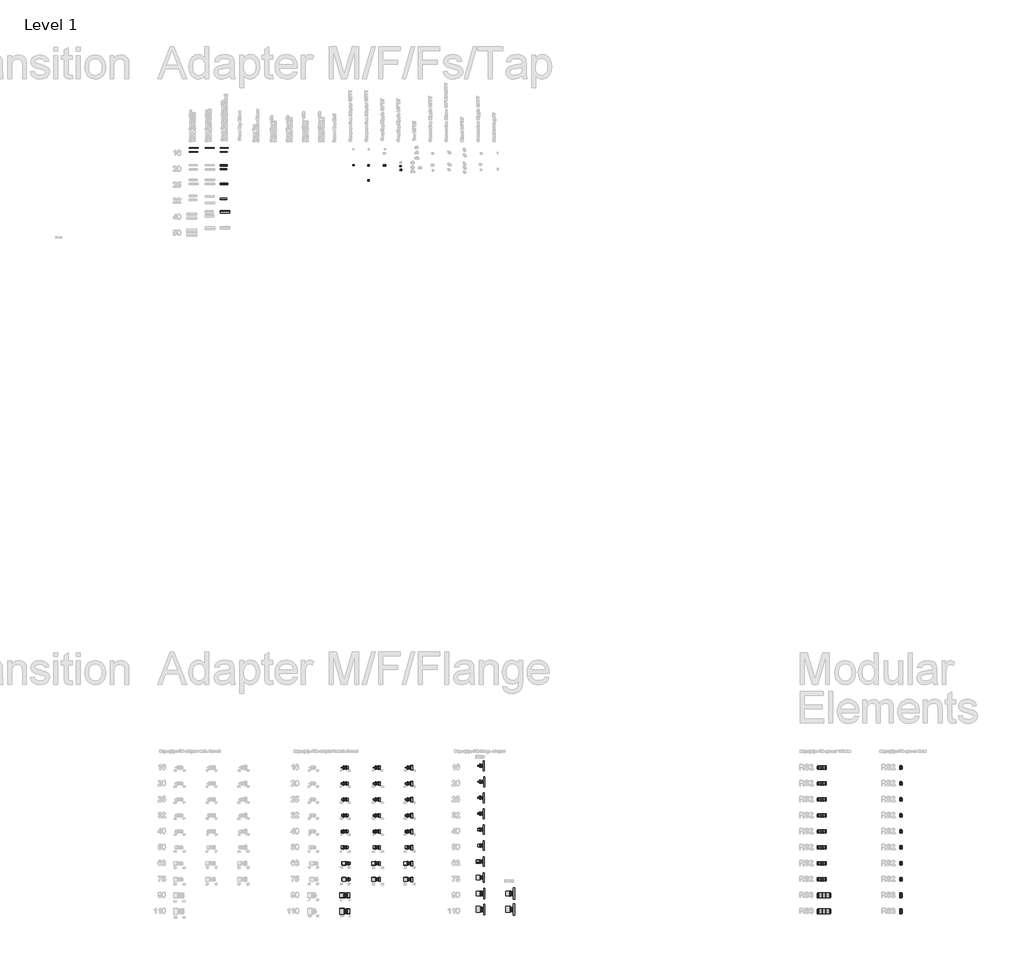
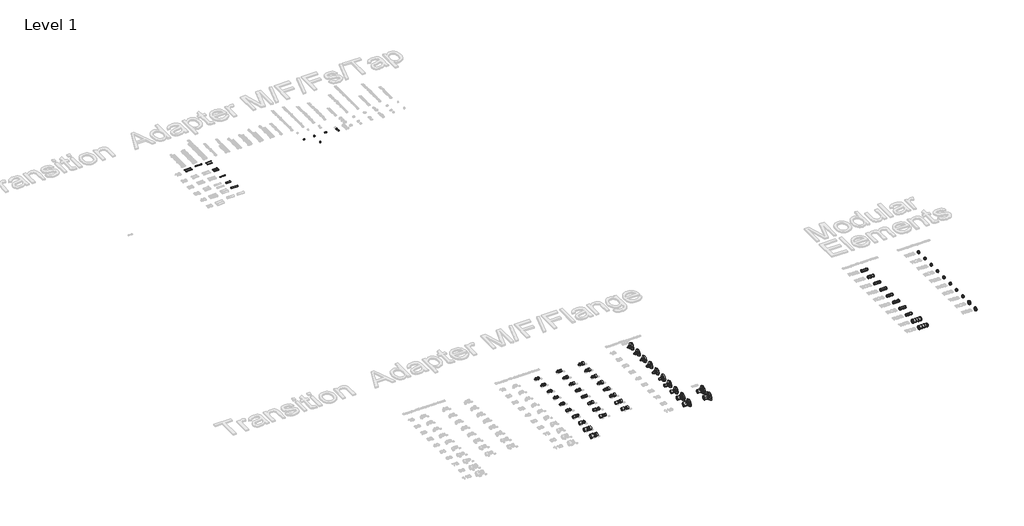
# One storey, part 5 of 58: 103 pipe fittings, 10 pipe segments.
"""IFC4 building model written with IfcOpenShell, lengths in millimetres."""

from ifc_helpers import new_model, si_unit, point, frame, frame_2d, origin, place, context, project, spatial, circle_curve, trimmed, segment, composite_curve, outline, extrude, transform, mapped, element, save
from components import pipe_fitting_62024e3c, pipe_fitting_8efa302d, pipe_fitting_230b2432, pipe_fitting_2b9a29ce, pipe_fitting_a4cde8ab, rs_adapter_8da40ca7, rs_adapter_b4bbd465, rs_adapter_f82712ed, rs_adapter_ef84fdb0, rs_adapter_c6cd646c, rs_adapter_ed761ce0, rs_adapter_634e7d73, rs_adapter_fc67200b, rs_adapter_b700a1d7, rs_adapter_1ad0a11d, rs_female_adapter_be3e60a6, rs_female_adapter_9108f48d, rs_female_adapter_c31f11b0, rs_female_adapter_dce81887, rs_flange_a0c34e24, rs_flange_74e88712, rs_flange_21cca742, rs_spacer_67fe0fff, rs_spacer_eb34c34b, rs_spacer_c2a2605f, rs_spacer_aa593b7b

model = new_model("IFC4")

# Units and contexts
model_context = context("Model", 3, world=origin())
ifc_project = project(units=[si_unit("LENGTHUNIT", "METRE", prefix="MILLI")], contexts=[model_context])

# Site, building, storey
site = spatial("IfcSite", under=ifc_project)
building = spatial("IfcBuilding", under=site)
storey = spatial("IfcBuildingStorey", under=building, Name="Level 1", Elevation=27.3876384)

# Pipe fittings
placement = place(None, origin())
pipe_fitting_shape = pipe_fitting_62024e3c(model_context)
element("IfcPipeFitting", 1, ObjectType="Coupling Nipple 3/4\"MT : Superpipe Coupling Nipple - 3/4\"MT-3/4\"MT", at=placement, inside=storey, context=model_context, shape_type="MappedRepresentation", body=[
    mapped(pipe_fitting_shape, transform((33335.3160951, 29942.8987205, 27.3876384), x_axis=(1.0, 0.0, 0.0), y_axis=(0.0, 1.0, 0.0), z_axis=(0.0, 0.0, 1.0))),
])
pipe_fitting_2_shape = pipe_fitting_8efa302d(model_context)
element("IfcPipeFitting", 2, ObjectType="Coupling Nipple 1/2\"MT : Superpipe Coupling Nipple - 20-1/2\"MT", at=placement, inside=storey, context=model_context, shape_type="MappedRepresentation", body=[
    mapped(pipe_fitting_2_shape, transform((33050.0023834, 29956.5969982, 27.3876384), x_axis=(1.0, 0.0, 0.0), y_axis=(0.0, 1.0, 0.0), z_axis=(0.0, 0.0, 1.0))),
])
element("IfcPipeFitting", 3, ObjectType="Coupling Nipple 3/4\"MT : Superpipe Coupling Nipple - 20-3/4\"MT", at=placement, inside=storey, context=model_context, shape_type="MappedRepresentation", body=[
    mapped(pipe_fitting_shape, transform((33342.5109629, 29873.890947, 27.3876384), x_axis=(1.0, 0.0, 0.0), y_axis=(0.0, 1.0, 0.0), z_axis=(0.0, 0.0, 1.0))),
])
pipe_fitting_3_shape = pipe_fitting_230b2432(model_context)
element("IfcPipeFitting", 4, ObjectType="Compression Adapter 1/2\"FT : Superpipe Compression Adapter", at=placement, inside=storey, context=model_context, shape_type="MappedRepresentation", body=[
    mapped(pipe_fitting_3_shape, transform((32440.8650131, 29960.0431886, 27.3876384), x_axis=(1.0, 0.0, 0.0), y_axis=(0.0, 1.0, 0.0), z_axis=(0.0, 0.0, 1.0))),
])
element("IfcPipeFitting", 5, ObjectType="Compression Adapter 1/2\"FT : Superpipe Compression Adapter", at=placement, inside=storey, context=model_context, shape_type="MappedRepresentation", body=[
    mapped(pipe_fitting_3_shape, transform((33017.0023834, 29956.5969982, 27.3876384), x_axis=(1.0, 0.0, 0.0), y_axis=(0.0, 1.0, 0.0), z_axis=(0.0, 0.0, 1.0))),
])
pipe_fitting_4_shape = pipe_fitting_2b9a29ce(model_context)
element("IfcPipeFitting", 6, ObjectType="Compression Adapter 3/4\"FT : Superpipe Compression Adapter", at=placement, inside=storey, context=model_context, shape_type="MappedRepresentation", body=[
    mapped(pipe_fitting_4_shape, transform((32723.8650131, 29679.1922591, 27.3876384), x_axis=(1.0, 0.0, 0.0), y_axis=(0.0, 1.0, 0.0), z_axis=(0.0, 0.0, 1.0))),
])
pipe_fitting_5_shape = pipe_fitting_a4cde8ab(model_context)
element("IfcPipeFitting", 7, ObjectType="Compression Adapter 3/4\"FT : Superpipe Compression Adapter", at=placement, inside=storey, context=model_context, shape_type="MappedRepresentation", body=[
    mapped(pipe_fitting_5_shape, transform((32723.8650131, 29960.0431886, 27.3876384), x_axis=(1.0, 0.0, 0.0), y_axis=(0.0, 1.0, 0.0), z_axis=(0.0, 0.0, 1.0))),
])
rs_adapter_shape = rs_adapter_8da40ca7(model_context)
element("IfcPipeFitting", 8, ObjectType="RS Adapter : Superpipe RS Press Adapter", at=placement, inside=storey, context=model_context, shape_type="MappedRepresentation", body=[
    mapped(rs_adapter_shape, transform((32296.6568613, 15946.8081159, 27.3876384), x_axis=(-1.0000000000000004, 0.0, 0.0), y_axis=(0.0, 1.0000000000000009, 0.0), z_axis=(0.0, 0.0, -1.0000000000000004))),
])
element("IfcPipeFitting", 9, ObjectType="RS Adapter : Superpipe RS Press Adapter", at=placement, inside=storey, context=model_context, shape_type="MappedRepresentation", body=[
    mapped(rs_adapter_shape, transform((34858.1649783, 15981.0652943, 27.3876384), x_axis=(-1.0000000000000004, 0.0, 0.0), y_axis=(0.0, 1.0000000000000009, 0.0), z_axis=(0.0, 0.0, -1.0000000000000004))),
])
element("IfcPipeFitting", 10, ObjectType="RS Adapter : Superpipe RS Press Adapter", at=placement, inside=storey, context=model_context, shape_type="MappedRepresentation", body=[
    mapped(rs_adapter_shape, transform((35414.1300252, 15981.0652943, 27.3876384), x_axis=(-1.0000000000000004, 0.0, 0.0), y_axis=(0.0, 1.0000000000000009, 0.0), z_axis=(0.0, 0.0, -1.0000000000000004))),
])
rs_adapter_2_shape = rs_adapter_b4bbd465(model_context)
element("IfcPipeFitting", 11, ObjectType="RS Adapter : Superpipe RS Press Adapter", at=placement, inside=storey, context=model_context, shape_type="MappedRepresentation", body=[
    mapped(rs_adapter_2_shape, transform((34850.1649783, 18681.0652943, 27.3876384), x_axis=(-1.0000000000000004, 0.0, 0.0), y_axis=(0.0, 1.0000000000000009, 0.0), z_axis=(0.0, 0.0, -1.0000000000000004))),
])
element("IfcPipeFitting", 12, ObjectType="RS Adapter : Superpipe RS Press Adapter", at=placement, inside=storey, context=model_context, shape_type="MappedRepresentation", body=[
    mapped(rs_adapter_2_shape, transform((32288.6568613, 18646.8081159, 27.3876384), x_axis=(-1.0000000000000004, 0.0, 0.0), y_axis=(0.0, 1.0000000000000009, 0.0), z_axis=(0.0, 0.0, -1.0000000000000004))),
])
element("IfcPipeFitting", 13, ObjectType="RS Adapter : Superpipe RS Press Adapter", at=placement, inside=storey, context=model_context, shape_type="MappedRepresentation", body=[
    mapped(rs_adapter_2_shape, transform((32888.6568613, 18646.8081159, 27.3876384), x_axis=(-1.0000000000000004, 0.0, 0.0), y_axis=(0.0, 1.0000000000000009, 0.0), z_axis=(0.0, 0.0, -1.0000000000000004))),
])
element("IfcPipeFitting", 14, ObjectType="RS Adapter : Superpipe RS Press Adapter", at=placement, inside=storey, context=model_context, shape_type="MappedRepresentation", body=[
    mapped(rs_adapter_2_shape, transform((33488.6568613, 18646.8081159, 27.3876384), x_axis=(-1.0000000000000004, 0.0, 0.0), y_axis=(0.0, 1.0000000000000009, 0.0), z_axis=(0.0, 0.0, -1.0000000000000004))),
])
rs_adapter_3_shape = rs_adapter_f82712ed(model_context)
element("IfcPipeFitting", 15, ObjectType="RS Adapter : Superpipe RS Press Adapter", at=placement, inside=storey, context=model_context, shape_type="MappedRepresentation", body=[
    mapped(rs_adapter_3_shape, transform((34852.157769, 18381.0652943, 27.3876384), x_axis=(-1.0000000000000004, 0.0, 0.0), y_axis=(0.0, 1.0000000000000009, 0.0), z_axis=(0.0, 0.0, -1.0000000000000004))),
])
element("IfcPipeFitting", 16, ObjectType="RS Adapter : Superpipe RS Press Adapter", at=placement, inside=storey, context=model_context, shape_type="MappedRepresentation", body=[
    mapped(rs_adapter_3_shape, transform((32288.6568613, 18346.8081159, 27.3876384), x_axis=(-1.0000000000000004, 0.0, 0.0), y_axis=(0.0, 1.0000000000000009, 0.0), z_axis=(0.0, 0.0, -1.0000000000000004))),
])
element("IfcPipeFitting", 17, ObjectType="RS Adapter : Superpipe RS Press Adapter", at=placement, inside=storey, context=model_context, shape_type="MappedRepresentation", body=[
    mapped(rs_adapter_3_shape, transform((32888.6568613, 18346.8081159, 27.3876384), x_axis=(-1.0000000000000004, 0.0, 0.0), y_axis=(0.0, 1.0000000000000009, 0.0), z_axis=(0.0, 0.0, -1.0000000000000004))),
])
element("IfcPipeFitting", 18, ObjectType="RS Adapter : Superpipe RS Press Adapter", at=placement, inside=storey, context=model_context, shape_type="MappedRepresentation", body=[
    mapped(rs_adapter_3_shape, transform((33488.6568613, 18346.8081159, 27.3876384), x_axis=(-1.0000000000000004, 0.0, 0.0), y_axis=(0.0, 1.0000000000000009, 0.0), z_axis=(0.0, 0.0, -1.0000000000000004))),
])
rs_adapter_4_shape = rs_adapter_ef84fdb0(model_context)
element("IfcPipeFitting", 19, ObjectType="RS Adapter : Superpipe RS Press Adapter", at=placement, inside=storey, context=model_context, shape_type="MappedRepresentation", body=[
    mapped(rs_adapter_4_shape, transform((34850.1649783, 18081.0652943, 27.3876384), x_axis=(-1.0000000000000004, 0.0, 0.0), y_axis=(0.0, 1.0000000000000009, 0.0), z_axis=(0.0, 0.0, -1.0000000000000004))),
])
element("IfcPipeFitting", 20, ObjectType="RS Adapter : Superpipe RS Press Adapter", at=placement, inside=storey, context=model_context, shape_type="MappedRepresentation", body=[
    mapped(rs_adapter_4_shape, transform((32288.6568613, 18046.8081159, 27.3876384), x_axis=(-1.0000000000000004, 0.0, 0.0), y_axis=(0.0, 1.0000000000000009, 0.0), z_axis=(0.0, 0.0, -1.0000000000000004))),
])
element("IfcPipeFitting", 21, ObjectType="RS Adapter : Superpipe RS Press Adapter", at=placement, inside=storey, context=model_context, shape_type="MappedRepresentation", body=[
    mapped(rs_adapter_4_shape, transform((32888.6568613, 18046.8081159, 27.3876384), x_axis=(-1.0000000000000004, 0.0, 0.0), y_axis=(0.0, 1.0000000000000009, 0.0), z_axis=(0.0, 0.0, -1.0000000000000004))),
])
element("IfcPipeFitting", 22, ObjectType="RS Adapter : Superpipe RS Press Adapter", at=placement, inside=storey, context=model_context, shape_type="MappedRepresentation", body=[
    mapped(rs_adapter_4_shape, transform((33488.6568613, 18046.8081159, 27.3876384), x_axis=(-1.0000000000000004, 0.0, 0.0), y_axis=(0.0, 1.0000000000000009, 0.0), z_axis=(0.0, 0.0, -1.0000000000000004))),
])
rs_adapter_5_shape = rs_adapter_c6cd646c(model_context)
element("IfcPipeFitting", 23, ObjectType="RS Adapter : Superpipe RS Press Adapter", at=placement, inside=storey, context=model_context, shape_type="MappedRepresentation", body=[
    mapped(rs_adapter_5_shape, transform((32296.6568613, 16246.8081159, 27.3876384), x_axis=(-1.0000000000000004, 0.0, 0.0), y_axis=(0.0, 1.0000000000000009, 0.0), z_axis=(0.0, 0.0, -1.0000000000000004))),
])
element("IfcPipeFitting", 24, ObjectType="RS Adapter : Superpipe RS Press Adapter", at=placement, inside=storey, context=model_context, shape_type="MappedRepresentation", body=[
    mapped(rs_adapter_5_shape, transform((34858.1649783, 16281.0652943, 27.3876384), x_axis=(-1.0000000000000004, 0.0, 0.0), y_axis=(0.0, 1.0000000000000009, 0.0), z_axis=(0.0, 0.0, -1.0000000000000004))),
])
element("IfcPipeFitting", 25, ObjectType="RS Adapter : Superpipe RS Press Adapter", at=placement, inside=storey, context=model_context, shape_type="MappedRepresentation", body=[
    mapped(rs_adapter_5_shape, transform((35414.1300252, 16281.0652943, 27.3876384), x_axis=(-1.0000000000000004, 0.0, 0.0), y_axis=(0.0, 1.0000000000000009, 0.0), z_axis=(0.0, 0.0, -1.0000000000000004))),
])
rs_adapter_6_shape = rs_adapter_ed761ce0(model_context)
element("IfcPipeFitting", 26, ObjectType="RS Adapter : Superpipe RS Press Adapter", at=placement, inside=storey, context=model_context, shape_type="MappedRepresentation", body=[
    mapped(rs_adapter_6_shape, transform((34850.1649783, 17781.0652943, 27.3876384), x_axis=(-1.0000000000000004, 0.0, 0.0), y_axis=(0.0, 1.0000000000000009, 0.0), z_axis=(0.0, 0.0, -1.0000000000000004))),
])
element("IfcPipeFitting", 27, ObjectType="RS Adapter : Superpipe RS Press Adapter", at=placement, inside=storey, context=model_context, shape_type="MappedRepresentation", body=[
    mapped(rs_adapter_6_shape, transform((32288.6568613, 17746.8081159, 27.3876384), x_axis=(-1.0000000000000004, 0.0, 0.0), y_axis=(0.0, 1.0000000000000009, 0.0), z_axis=(0.0, 0.0, -1.0000000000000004))),
])
element("IfcPipeFitting", 28, ObjectType="RS Adapter : Superpipe RS Press Adapter", at=placement, inside=storey, context=model_context, shape_type="MappedRepresentation", body=[
    mapped(rs_adapter_6_shape, transform((32888.6568613, 17746.8081159, 27.3876384), x_axis=(-1.0000000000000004, 0.0, 0.0), y_axis=(0.0, 1.0000000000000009, 0.0), z_axis=(0.0, 0.0, -1.0000000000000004))),
])
element("IfcPipeFitting", 29, ObjectType="RS Adapter : Superpipe RS Press Adapter", at=placement, inside=storey, context=model_context, shape_type="MappedRepresentation", body=[
    mapped(rs_adapter_6_shape, transform((33488.6568613, 17746.8081159, 27.3876384), x_axis=(-1.0000000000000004, 0.0, 0.0), y_axis=(0.0, 1.0000000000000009, 0.0), z_axis=(0.0, 0.0, -1.0000000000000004))),
])
rs_adapter_7_shape = rs_adapter_634e7d73(model_context)
element("IfcPipeFitting", 30, ObjectType="RS Adapter : Superpipe RS Press Adapter", at=placement, inside=storey, context=model_context, shape_type="MappedRepresentation", body=[
    mapped(rs_adapter_7_shape, transform((34850.1649783, 17481.0652943, 27.3876384), x_axis=(-1.0000000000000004, 0.0, 0.0), y_axis=(0.0, 1.0000000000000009, 0.0), z_axis=(0.0, 0.0, -1.0000000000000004))),
])
element("IfcPipeFitting", 31, ObjectType="RS Adapter : Superpipe RS Press Adapter", at=placement, inside=storey, context=model_context, shape_type="MappedRepresentation", body=[
    mapped(rs_adapter_7_shape, transform((32288.6568613, 17446.8081159, 27.3876384), x_axis=(-1.0000000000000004, 0.0, 0.0), y_axis=(0.0, 1.0000000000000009, 0.0), z_axis=(0.0, 0.0, -1.0000000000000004))),
])
element("IfcPipeFitting", 32, ObjectType="RS Adapter : Superpipe RS Press Adapter", at=placement, inside=storey, context=model_context, shape_type="MappedRepresentation", body=[
    mapped(rs_adapter_7_shape, transform((32888.6568613, 17446.8081159, 27.3876384), x_axis=(-1.0000000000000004, 0.0, 0.0), y_axis=(0.0, 1.0000000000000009, 0.0), z_axis=(0.0, 0.0, -1.0000000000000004))),
])
element("IfcPipeFitting", 33, ObjectType="RS Adapter : Superpipe RS Press Adapter", at=placement, inside=storey, context=model_context, shape_type="MappedRepresentation", body=[
    mapped(rs_adapter_7_shape, transform((33488.6568613, 17446.8081159, 27.3876384), x_axis=(-1.0000000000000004, 0.0, 0.0), y_axis=(0.0, 1.0000000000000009, 0.0), z_axis=(0.0, 0.0, -1.0000000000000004))),
])
rs_adapter_8_shape = rs_adapter_fc67200b(model_context)
element("IfcPipeFitting", 34, ObjectType="RS Adapter : Superpipe RS Press Adapter", at=placement, inside=storey, context=model_context, shape_type="MappedRepresentation", body=[
    mapped(rs_adapter_8_shape, transform((34850.1649783, 17181.0652943, 27.3876384), x_axis=(-1.0000000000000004, 0.0, 0.0), y_axis=(0.0, 1.0000000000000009, 0.0), z_axis=(0.0, 0.0, -1.0000000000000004))),
])
element("IfcPipeFitting", 35, ObjectType="RS Adapter : Superpipe RS Press Adapter", at=placement, inside=storey, context=model_context, shape_type="MappedRepresentation", body=[
    mapped(rs_adapter_8_shape, transform((32288.6568613, 17146.8081159, 27.3876384), x_axis=(-1.0000000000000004, 0.0, 0.0), y_axis=(0.0, 1.0000000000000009, 0.0), z_axis=(0.0, 0.0, -1.0000000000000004))),
])
element("IfcPipeFitting", 36, ObjectType="RS Adapter : Superpipe RS Press Adapter", at=placement, inside=storey, context=model_context, shape_type="MappedRepresentation", body=[
    mapped(rs_adapter_8_shape, transform((32888.6568613, 17146.8081159, 27.3876384), x_axis=(-1.0000000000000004, 0.0, 0.0), y_axis=(0.0, 1.0000000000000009, 0.0), z_axis=(0.0, 0.0, -1.0000000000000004))),
])
element("IfcPipeFitting", 37, ObjectType="RS Adapter : Superpipe RS Press Adapter", at=placement, inside=storey, context=model_context, shape_type="MappedRepresentation", body=[
    mapped(rs_adapter_8_shape, transform((33488.6568613, 17146.8081159, 27.3876384), x_axis=(-1.0000000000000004, 0.0, 0.0), y_axis=(0.0, 1.0000000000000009, 0.0), z_axis=(0.0, 0.0, -1.0000000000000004))),
])
rs_adapter_9_shape = rs_adapter_b700a1d7(model_context)
element("IfcPipeFitting", 38, ObjectType="RS Adapter : Superpipe RS Press Adapter", at=placement, inside=storey, context=model_context, shape_type="MappedRepresentation", body=[
    mapped(rs_adapter_9_shape, transform((34850.1649783, 16581.0652943, 27.3876384), x_axis=(-1.0000000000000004, 0.0, 0.0), y_axis=(0.0, 1.0000000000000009, 0.0), z_axis=(0.0, 0.0, -1.0000000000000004))),
])
element("IfcPipeFitting", 39, ObjectType="RS Adapter : Superpipe RS Press Adapter", at=placement, inside=storey, context=model_context, shape_type="MappedRepresentation", body=[
    mapped(rs_adapter_9_shape, transform((32328.6568613, 16546.8081159, 27.3876384), x_axis=(-1.0000000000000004, 0.0, 0.0), y_axis=(0.0, 1.0000000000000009, 0.0), z_axis=(0.0, 0.0, -1.0000000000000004))),
])
element("IfcPipeFitting", 40, ObjectType="RS Adapter : Superpipe RS Press Adapter", at=placement, inside=storey, context=model_context, shape_type="MappedRepresentation", body=[
    mapped(rs_adapter_9_shape, transform((32888.6568613, 16546.8081159, 27.3876384), x_axis=(-1.0000000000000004, 0.0, 0.0), y_axis=(0.0, 1.0000000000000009, 0.0), z_axis=(0.0, 0.0, -1.0000000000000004))),
])
element("IfcPipeFitting", 41, ObjectType="RS Adapter : Superpipe RS Press Adapter", at=placement, inside=storey, context=model_context, shape_type="MappedRepresentation", body=[
    mapped(rs_adapter_9_shape, transform((33488.6568613, 16546.8081159, 27.3876384), x_axis=(-1.0000000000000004, 0.0, 0.0), y_axis=(0.0, 1.0000000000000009, 0.0), z_axis=(0.0, 0.0, -1.0000000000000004))),
])
rs_adapter_10_shape = rs_adapter_1ad0a11d(model_context)
element("IfcPipeFitting", 42, ObjectType="RS Adapter : Superpipe RS Press Adapter", at=placement, inside=storey, context=model_context, shape_type="MappedRepresentation", body=[
    mapped(rs_adapter_10_shape, transform((34850.1649783, 16881.0652943, 27.3876384), x_axis=(-1.0000000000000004, 0.0, 0.0), y_axis=(0.0, 1.0000000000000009, 0.0), z_axis=(0.0, 0.0, -1.0000000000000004))),
])
element("IfcPipeFitting", 43, ObjectType="RS Adapter : Superpipe RS Press Adapter", at=placement, inside=storey, context=model_context, shape_type="MappedRepresentation", body=[
    mapped(rs_adapter_10_shape, transform((32328.6568613, 16846.8081159, 27.3876384), x_axis=(-1.0000000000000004, 0.0, 0.0), y_axis=(0.0, 1.0000000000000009, 0.0), z_axis=(0.0, 0.0, -1.0000000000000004))),
])
element("IfcPipeFitting", 44, ObjectType="RS Adapter : Superpipe RS Press Adapter", at=placement, inside=storey, context=model_context, shape_type="MappedRepresentation", body=[
    mapped(rs_adapter_10_shape, transform((32888.6568613, 16846.8081159, 27.3876384), x_axis=(-1.0000000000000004, 0.0, 0.0), y_axis=(0.0, 1.0000000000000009, 0.0), z_axis=(0.0, 0.0, -1.0000000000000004))),
])
element("IfcPipeFitting", 45, ObjectType="RS Adapter : Superpipe RS Press Adapter", at=placement, inside=storey, context=model_context, shape_type="MappedRepresentation", body=[
    mapped(rs_adapter_10_shape, transform((33488.6568613, 16846.8081159, 27.3876384), x_axis=(-1.0000000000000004, 0.0, 0.0), y_axis=(0.0, 1.0000000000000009, 0.0), z_axis=(0.0, 0.0, -1.0000000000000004))),
])
rs_female_adapter_shape = rs_female_adapter_be3e60a6(model_context)
element("IfcPipeFitting", 46, ObjectType="RS Female Adapter : Superpipe RS2 FT Adapter 1”", at=placement, inside=storey, context=model_context, shape_type="MappedRepresentation", body=[
    mapped(rs_female_adapter_shape, transform((32306.6568613, 18646.8081159, 27.3876384), x_axis=(1.0, 0.0, 0.0), y_axis=(0.0, -1.0, 0.0), z_axis=(0.0, 0.0, -1.0))),
])
element("IfcPipeFitting", 47, ObjectType="RS Female Adapter : Superpipe RS2 FT Adapter 1”", at=placement, inside=storey, context=model_context, shape_type="MappedRepresentation", body=[
    mapped(rs_female_adapter_shape, transform((32306.6568613, 18346.8081159, 27.3876384), x_axis=(1.0, 0.0, 0.0), y_axis=(0.0, -1.0, 0.0), z_axis=(0.0, 0.0, -1.0))),
])
element("IfcPipeFitting", 48, ObjectType="RS Female Adapter : Superpipe RS2 FT Adapter 1”", at=placement, inside=storey, context=model_context, shape_type="MappedRepresentation", body=[
    mapped(rs_female_adapter_shape, transform((32306.6568613, 18046.8081159, 27.3876384), x_axis=(1.0, 0.0, 0.0), y_axis=(0.0, -1.0, 0.0), z_axis=(0.0, 0.0, -1.0))),
])
element("IfcPipeFitting", 49, ObjectType="RS Female Adapter : Superpipe RS2 FT Adapter 1”", at=placement, inside=storey, context=model_context, shape_type="MappedRepresentation", body=[
    mapped(rs_female_adapter_shape, transform((32306.6568613, 17746.8081159, 27.3876384), x_axis=(1.0, 0.0, 0.0), y_axis=(0.0, -1.0, 0.0), z_axis=(0.0, 0.0, -1.0))),
])
element("IfcPipeFitting", 50, ObjectType="RS Female Adapter : Superpipe RS2 FT Adapter 1”", at=placement, inside=storey, context=model_context, shape_type="MappedRepresentation", body=[
    mapped(rs_female_adapter_shape, transform((32306.6568613, 17446.8081159, 27.3876384), x_axis=(1.0, 0.0, 0.0), y_axis=(0.0, -1.0, 0.0), z_axis=(0.0, 0.0, -1.0))),
])
element("IfcPipeFitting", 51, ObjectType="RS Female Adapter : Superpipe RS2 FT Adapter 1”", at=placement, inside=storey, context=model_context, shape_type="MappedRepresentation", body=[
    mapped(rs_female_adapter_shape, transform((32306.6568613, 17146.8081159, 27.3876384), x_axis=(1.0, 0.0, 0.0), y_axis=(0.0, -1.0, 0.0), z_axis=(0.0, 0.0, -1.0))),
])
element("IfcPipeFitting", 52, ObjectType="RS Female Adapter : Superpipe RS2 FT Adapter 1”", at=placement, inside=storey, context=model_context, shape_type="MappedRepresentation", body=[
    mapped(rs_female_adapter_shape, transform((32346.6568613, 16846.8081159, 27.3876384), x_axis=(1.0, 0.0, 0.0), y_axis=(0.0, -1.0, 0.0), z_axis=(0.0, 0.0, -1.0))),
])
element("IfcPipeFitting", 53, ObjectType="RS Female Adapter : Superpipe RS2 FT Adapter 1”", at=placement, inside=storey, context=model_context, shape_type="MappedRepresentation", body=[
    mapped(rs_female_adapter_shape, transform((32346.6568613, 16546.8081159, 27.3876384), x_axis=(1.0, 0.0, 0.0), y_axis=(0.0, -1.0, 0.0), z_axis=(0.0, 0.0, -1.0))),
])
rs_female_adapter_2_shape = rs_female_adapter_9108f48d(model_context)
element("IfcPipeFitting", 54, ObjectType="RS Female Adapter : Superpipe RS2 FT Adapter 2”", at=placement, inside=storey, context=model_context, shape_type="MappedRepresentation", body=[
    mapped(rs_female_adapter_2_shape, transform((32906.6568613, 18346.8081159, 27.3876384), x_axis=(1.0, 0.0, 0.0), y_axis=(0.0, -1.0, 0.0), z_axis=(0.0, 0.0, -1.0))),
])
element("IfcPipeFitting", 55, ObjectType="RS Female Adapter : Superpipe RS2 FT Adapter 2”", at=placement, inside=storey, context=model_context, shape_type="MappedRepresentation", body=[
    mapped(rs_female_adapter_2_shape, transform((32906.6568613, 18046.8081159, 27.3876384), x_axis=(1.0, 0.0, 0.0), y_axis=(0.0, -1.0, 0.0), z_axis=(0.0, 0.0, -1.0))),
])
element("IfcPipeFitting", 56, ObjectType="RS Female Adapter : Superpipe RS2 FT Adapter 2”", at=placement, inside=storey, context=model_context, shape_type="MappedRepresentation", body=[
    mapped(rs_female_adapter_2_shape, transform((32906.6568613, 17746.8081159, 27.3876384), x_axis=(1.0, 0.0, 0.0), y_axis=(0.0, -1.0, 0.0), z_axis=(0.0, 0.0, -1.0))),
])
element("IfcPipeFitting", 57, ObjectType="RS Female Adapter : Superpipe RS2 FT Adapter 2”", at=placement, inside=storey, context=model_context, shape_type="MappedRepresentation", body=[
    mapped(rs_female_adapter_2_shape, transform((32906.6568613, 17446.8081159, 27.3876384), x_axis=(1.0, 0.0, 0.0), y_axis=(0.0, -1.0, 0.0), z_axis=(0.0, 0.0, -1.0))),
])
element("IfcPipeFitting", 58, ObjectType="RS Female Adapter : Superpipe RS2 FT Adapter 2”", at=placement, inside=storey, context=model_context, shape_type="MappedRepresentation", body=[
    mapped(rs_female_adapter_2_shape, transform((32906.6568613, 17146.8081159, 27.3876384), x_axis=(1.0, 0.0, 0.0), y_axis=(0.0, -1.0, 0.0), z_axis=(0.0, 0.0, -1.0))),
])
element("IfcPipeFitting", 59, ObjectType="RS Female Adapter : Superpipe RS2 FT Adapter 2”", at=placement, inside=storey, context=model_context, shape_type="MappedRepresentation", body=[
    mapped(rs_female_adapter_2_shape, transform((32906.6568613, 16846.8081159, 27.3876384), x_axis=(1.0, 0.0, 0.0), y_axis=(0.0, -1.0, 0.0), z_axis=(0.0, 0.0, -1.0))),
])
element("IfcPipeFitting", 60, ObjectType="RS Female Adapter : Superpipe RS2 FT Adapter 2”", at=placement, inside=storey, context=model_context, shape_type="MappedRepresentation", body=[
    mapped(rs_female_adapter_2_shape, transform((32906.6568613, 16546.8081159, 27.3876384), x_axis=(1.0, 0.0, 0.0), y_axis=(0.0, -1.0, 0.0), z_axis=(0.0, 0.0, -1.0))),
])
element("IfcPipeFitting", 61, ObjectType="RS Female Adapter : Superpipe RS2 FT Adapter 2”", at=placement, inside=storey, context=model_context, shape_type="MappedRepresentation", body=[
    mapped(rs_female_adapter_2_shape, transform((32906.6568613, 18646.8081159, 27.3876384), x_axis=(1.0, 0.0, 0.0), y_axis=(0.0, -1.0, 0.0), z_axis=(0.0, 0.0, -1.0))),
])
rs_female_adapter_3_shape = rs_female_adapter_c31f11b0(model_context)
element("IfcPipeFitting", 62, ObjectType="RS Female Adapter : Superpipe RS2 FT Adabter 2½”", at=placement, inside=storey, context=model_context, shape_type="MappedRepresentation", body=[
    mapped(rs_female_adapter_3_shape, transform((33506.6568613, 18646.8081159, 27.3876384), x_axis=(1.0, 0.0, 0.0), y_axis=(0.0, -1.0, 0.0), z_axis=(0.0, 0.0, -1.0))),
])
element("IfcPipeFitting", 63, ObjectType="RS Female Adapter : Superpipe RS2 FT Adabter 2½”", at=placement, inside=storey, context=model_context, shape_type="MappedRepresentation", body=[
    mapped(rs_female_adapter_3_shape, transform((33506.6568613, 18346.8081159, 27.3876384), x_axis=(1.0, 0.0, 0.0), y_axis=(0.0, -1.0, 0.0), z_axis=(0.0, 0.0, -1.0))),
])
element("IfcPipeFitting", 64, ObjectType="RS Female Adapter : Superpipe RS2 FT Adabter 2½”", at=placement, inside=storey, context=model_context, shape_type="MappedRepresentation", body=[
    mapped(rs_female_adapter_3_shape, transform((33506.6568613, 18046.8081159, 27.3876384), x_axis=(1.0, 0.0, 0.0), y_axis=(0.0, -1.0, 0.0), z_axis=(0.0, 0.0, -1.0))),
])
element("IfcPipeFitting", 65, ObjectType="RS Female Adapter : Superpipe RS2 FT Adabter 2½”", at=placement, inside=storey, context=model_context, shape_type="MappedRepresentation", body=[
    mapped(rs_female_adapter_3_shape, transform((33506.6568613, 17746.8081159, 27.3876384), x_axis=(1.0, 0.0, 0.0), y_axis=(0.0, -1.0, 0.0), z_axis=(0.0, 0.0, -1.0))),
])
element("IfcPipeFitting", 66, ObjectType="RS Female Adapter : Superpipe RS2 FT Adabter 2½”", at=placement, inside=storey, context=model_context, shape_type="MappedRepresentation", body=[
    mapped(rs_female_adapter_3_shape, transform((33506.6568613, 17446.8081159, 27.3876384), x_axis=(1.0, 0.0, 0.0), y_axis=(0.0, -1.0, 0.0), z_axis=(0.0, 0.0, -1.0))),
])
element("IfcPipeFitting", 67, ObjectType="RS Female Adapter : Superpipe RS2 FT Adabter 2½”", at=placement, inside=storey, context=model_context, shape_type="MappedRepresentation", body=[
    mapped(rs_female_adapter_3_shape, transform((33506.6568613, 17146.8081159, 27.3876384), x_axis=(1.0, 0.0, 0.0), y_axis=(0.0, -1.0, 0.0), z_axis=(0.0, 0.0, -1.0))),
])
element("IfcPipeFitting", 68, ObjectType="RS Female Adapter : Superpipe RS2 FT Adabter 2½”", at=placement, inside=storey, context=model_context, shape_type="MappedRepresentation", body=[
    mapped(rs_female_adapter_3_shape, transform((33506.6568613, 16846.8081159, 27.3876384), x_axis=(1.0, 0.0, 0.0), y_axis=(0.0, -1.0, 0.0), z_axis=(0.0, 0.0, -1.0))),
])
element("IfcPipeFitting", 69, ObjectType="RS Female Adapter : Superpipe RS2 FT Adabter 2½”", at=placement, inside=storey, context=model_context, shape_type="MappedRepresentation", body=[
    mapped(rs_female_adapter_3_shape, transform((33506.6568613, 16546.8081159, 27.3876384), x_axis=(1.0, 0.0, 0.0), y_axis=(0.0, -1.0, 0.0), z_axis=(0.0, 0.0, -1.0))),
])
rs_female_adapter_4_shape = rs_female_adapter_dce81887(model_context)
element("IfcPipeFitting", 70, ObjectType="RS Female Adapter : Superpipe RS3 FT Adapter 3”", at=placement, inside=storey, context=model_context, shape_type="MappedRepresentation", body=[
    mapped(rs_female_adapter_4_shape, transform((32314.6568613, 16246.8081159, 27.3876384), x_axis=(1.0, 0.0, 0.0), y_axis=(0.0, -1.0, 0.0), z_axis=(0.0, 0.0, -1.0))),
])
element("IfcPipeFitting", 71, ObjectType="RS Female Adapter : Superpipe RS3 FT Adapter 3”", at=placement, inside=storey, context=model_context, shape_type="MappedRepresentation", body=[
    mapped(rs_female_adapter_4_shape, transform((32314.6568613, 15946.8081159, 27.3876384), x_axis=(1.0, 0.0, 0.0), y_axis=(0.0, -1.0, 0.0), z_axis=(0.0, 0.0, -1.0))),
])
rs_flange_shape = rs_flange_a0c34e24(model_context)
element("IfcPipeFitting", 72, ObjectType="RS Flange : Superpipe Flange Adapter - RS3 DN80 (PN16)", at=placement, inside=storey, context=model_context, shape_type="MappedRepresentation", body=[
    mapped(rs_flange_shape, transform((34875.1649783, 15981.0652943, 27.3876384), x_axis=(1.0, 0.0, 0.0), y_axis=(0.0, -1.0, 0.0), z_axis=(0.0, 0.0, -1.0))),
])
element("IfcPipeFitting", 73, ObjectType="RS Flange : Superpipe Flange Adapter - RS3 DN80 (PN16)", at=placement, inside=storey, context=model_context, shape_type="MappedRepresentation", body=[
    mapped(rs_flange_shape, transform((34875.1649783, 16281.0652943, 27.3876384), x_axis=(1.0, 0.0, 0.0), y_axis=(0.0, -1.0, 0.0), z_axis=(0.0, 0.0, -1.0))),
])
rs_flange_2_shape = rs_flange_74e88712(model_context)
element("IfcPipeFitting", 74, ObjectType="RS Flange : Superpipe Flange Adapter - RS3 DN100 (PN16)", at=placement, inside=storey, context=model_context, shape_type="MappedRepresentation", body=[
    mapped(rs_flange_2_shape, transform((35431.1300252, 15981.0652943, 27.3876384), x_axis=(1.0, 0.0, 0.0), y_axis=(0.0, -1.0, 0.0), z_axis=(0.0, 0.0, -1.0))),
])
element("IfcPipeFitting", 75, ObjectType="RS Flange : Superpipe Flange Adapter - RS3 DN100 (PN16)", at=placement, inside=storey, context=model_context, shape_type="MappedRepresentation", body=[
    mapped(rs_flange_2_shape, transform((35431.1300252, 16281.0652943, 27.3876384), x_axis=(1.0, 0.0, 0.0), y_axis=(0.0, -1.0, 0.0), z_axis=(0.0, 0.0, -1.0))),
])
rs_flange_3_shape = rs_flange_21cca742(model_context)
element("IfcPipeFitting", 76, ObjectType="RS Flange : Superpipe Flange Adapter - RS2 DN65 (PN16)", at=placement, inside=storey, context=model_context, shape_type="MappedRepresentation", body=[
    mapped(rs_flange_3_shape, transform((34867.1649783, 18681.0652943, 27.3876384), x_axis=(1.0, 0.0, 0.0), y_axis=(0.0, -1.0, 0.0), z_axis=(0.0, 0.0, -1.0))),
])
element("IfcPipeFitting", 77, ObjectType="RS Flange : Superpipe Flange Adapter - RS2 DN65 (PN16)", at=placement, inside=storey, context=model_context, shape_type="MappedRepresentation", body=[
    mapped(rs_flange_3_shape, transform((34869.157769, 18381.0652943, 27.3876384), x_axis=(1.0, 0.0, 0.0), y_axis=(0.0, -1.0, 0.0), z_axis=(0.0, 0.0, -1.0))),
])
element("IfcPipeFitting", 78, ObjectType="RS Flange : Superpipe Flange Adapter - RS2 DN65 (PN16)", at=placement, inside=storey, context=model_context, shape_type="MappedRepresentation", body=[
    mapped(rs_flange_3_shape, transform((34867.1649783, 18081.0652943, 27.3876384), x_axis=(1.0, 0.0, 0.0), y_axis=(0.0, -1.0, 0.0), z_axis=(0.0, 0.0, -1.0))),
])
element("IfcPipeFitting", 79, ObjectType="RS Flange : Superpipe Flange Adapter - RS2 DN65 (PN16)", at=placement, inside=storey, context=model_context, shape_type="MappedRepresentation", body=[
    mapped(rs_flange_3_shape, transform((34867.1649783, 17781.0652943, 27.3876384), x_axis=(1.0, 0.0, 0.0), y_axis=(0.0, -1.0, 0.0), z_axis=(0.0, 0.0, -1.0))),
])
element("IfcPipeFitting", 80, ObjectType="RS Flange : Superpipe Flange Adapter - RS2 DN65 (PN16)", at=placement, inside=storey, context=model_context, shape_type="MappedRepresentation", body=[
    mapped(rs_flange_3_shape, transform((34867.1649783, 17481.0652943, 27.3876384), x_axis=(1.0, 0.0, 0.0), y_axis=(0.0, -1.0, 0.0), z_axis=(0.0, 0.0, -1.0))),
])
element("IfcPipeFitting", 81, ObjectType="RS Flange : Superpipe Flange Adapter - RS2 DN65 (PN16)", at=placement, inside=storey, context=model_context, shape_type="MappedRepresentation", body=[
    mapped(rs_flange_3_shape, transform((34867.1649783, 17181.0652943, 27.3876384), x_axis=(1.0, 0.0, 0.0), y_axis=(0.0, -1.0, 0.0), z_axis=(0.0, 0.0, -1.0))),
])
element("IfcPipeFitting", 82, ObjectType="RS Flange : Superpipe Flange Adapter - RS2 DN65 (PN16)", at=placement, inside=storey, context=model_context, shape_type="MappedRepresentation", body=[
    mapped(rs_flange_3_shape, transform((34867.1649783, 16881.0652943, 27.3876384), x_axis=(1.0, 0.0, 0.0), y_axis=(0.0, -1.0, 0.0), z_axis=(0.0, 0.0, -1.0))),
])
element("IfcPipeFitting", 83, ObjectType="RS Flange : Superpipe Flange Adapter - RS2 DN65 (PN16)", at=placement, inside=storey, context=model_context, shape_type="MappedRepresentation", body=[
    mapped(rs_flange_3_shape, transform((34867.1649783, 16581.0652943, 27.3876384), x_axis=(1.0, 0.0, 0.0), y_axis=(0.0, -1.0, 0.0), z_axis=(0.0, 0.0, -1.0))),
])
rs_spacer_shape = rs_spacer_67fe0fff(model_context)
element("IfcPipeFitting", 84, ObjectType="RS Spacer : Superpipe RS Spacer - RS2 130mm", at=placement, inside=storey, context=model_context, shape_type="MappedRepresentation", body=[
    mapped(rs_spacer_shape, transform((41164.4874053, 18646.8081159, 27.3876384), x_axis=(1.0, 0.0, 0.0), y_axis=(0.0, 1.0, 0.0), z_axis=(0.0, 0.0, 1.0))),
])
element("IfcPipeFitting", 85, ObjectType="RS Spacer : Superpipe RS Spacer - RS2 130mm", at=placement, inside=storey, context=model_context, shape_type="MappedRepresentation", body=[
    mapped(rs_spacer_shape, transform((41164.4874053, 18346.8081159, 27.3876384), x_axis=(1.0, 0.0, 0.0), y_axis=(0.0, 1.0, 0.0), z_axis=(0.0, 0.0, 1.0))),
])
element("IfcPipeFitting", 86, ObjectType="RS Spacer : Superpipe RS Spacer - RS2 130mm", at=placement, inside=storey, context=model_context, shape_type="MappedRepresentation", body=[
    mapped(rs_spacer_shape, transform((41164.4874053, 18046.8081159, 27.3876384), x_axis=(1.0, 0.0, 0.0), y_axis=(0.0, 1.0, 0.0), z_axis=(0.0, 0.0, 1.0))),
])
element("IfcPipeFitting", 87, ObjectType="RS Spacer : Superpipe RS Spacer - RS2 130mm", at=placement, inside=storey, context=model_context, shape_type="MappedRepresentation", body=[
    mapped(rs_spacer_shape, transform((41164.4874053, 17746.8081159, 27.3876384), x_axis=(1.0, 0.0, 0.0), y_axis=(0.0, 1.0, 0.0), z_axis=(0.0, 0.0, 1.0))),
])
element("IfcPipeFitting", 88, ObjectType="RS Spacer : Superpipe RS Spacer - RS2 130mm", at=placement, inside=storey, context=model_context, shape_type="MappedRepresentation", body=[
    mapped(rs_spacer_shape, transform((41164.4874053, 17446.8081159, 27.3876384), x_axis=(1.0, 0.0, 0.0), y_axis=(0.0, 1.0, 0.0), z_axis=(0.0, 0.0, 1.0))),
])
element("IfcPipeFitting", 89, ObjectType="RS Spacer : Superpipe RS Spacer - RS2 130mm", at=placement, inside=storey, context=model_context, shape_type="MappedRepresentation", body=[
    mapped(rs_spacer_shape, transform((41164.4874053, 17146.8081159, 27.3876384), x_axis=(1.0, 0.0, 0.0), y_axis=(0.0, 1.0, 0.0), z_axis=(0.0, 0.0, 1.0))),
])
element("IfcPipeFitting", 90, ObjectType="RS Spacer : Superpipe RS Spacer - RS2 130mm", at=placement, inside=storey, context=model_context, shape_type="MappedRepresentation", body=[
    mapped(rs_spacer_shape, transform((41164.4874053, 16846.8081159, 27.3876384), x_axis=(1.0, 0.0, 0.0), y_axis=(0.0, 1.0, 0.0), z_axis=(0.0, 0.0, 1.0))),
])
element("IfcPipeFitting", 91, ObjectType="RS Spacer : Superpipe RS Spacer - RS2 130mm", at=placement, inside=storey, context=model_context, shape_type="MappedRepresentation", body=[
    mapped(rs_spacer_shape, transform((41164.4874053, 16546.8081159, 27.3876384), x_axis=(1.0, 0.0, 0.0), y_axis=(0.0, 1.0, 0.0), z_axis=(0.0, 0.0, 1.0))),
])
rs_spacer_2_shape = rs_spacer_eb34c34b(model_context)
element("IfcPipeFitting", 92, ObjectType="RS Spacer : Superpipe RS Spacer - RS2 5mm", at=placement, inside=storey, context=model_context, shape_type="MappedRepresentation", body=[
    mapped(rs_spacer_2_shape, transform((42708.7936784, 18646.8081159, 27.3876384), x_axis=(1.0, 0.0, 0.0), y_axis=(0.0, -1.0, 0.0), z_axis=(0.0, 0.0, -1.0))),
])
element("IfcPipeFitting", 93, ObjectType="RS Spacer : Superpipe RS Spacer - RS2 5mm", at=placement, inside=storey, context=model_context, shape_type="MappedRepresentation", body=[
    mapped(rs_spacer_2_shape, transform((42708.7936784, 18346.8081159, 27.3876384), x_axis=(1.0, 0.0, 0.0), y_axis=(0.0, -1.0, 0.0), z_axis=(0.0, 0.0, -1.0))),
])
element("IfcPipeFitting", 94, ObjectType="RS Spacer : Superpipe RS Spacer - RS2 5mm", at=placement, inside=storey, context=model_context, shape_type="MappedRepresentation", body=[
    mapped(rs_spacer_2_shape, transform((42708.7936784, 18046.8081159, 27.3876384), x_axis=(1.0, 0.0, 0.0), y_axis=(0.0, -1.0, 0.0), z_axis=(0.0, 0.0, -1.0))),
])
element("IfcPipeFitting", 95, ObjectType="RS Spacer : Superpipe RS Spacer - RS2 5mm", at=placement, inside=storey, context=model_context, shape_type="MappedRepresentation", body=[
    mapped(rs_spacer_2_shape, transform((42708.7936784, 17746.8081159, 27.3876384), x_axis=(1.0, 0.0, 0.0), y_axis=(0.0, -1.0, 0.0), z_axis=(0.0, 0.0, -1.0))),
])
element("IfcPipeFitting", 96, ObjectType="RS Spacer : Superpipe RS Spacer - RS2 5mm", at=placement, inside=storey, context=model_context, shape_type="MappedRepresentation", body=[
    mapped(rs_spacer_2_shape, transform((42708.7936784, 17446.8081159, 27.3876384), x_axis=(1.0, 0.0, 0.0), y_axis=(0.0, -1.0, 0.0), z_axis=(0.0, 0.0, -1.0))),
])
element("IfcPipeFitting", 97, ObjectType="RS Spacer : Superpipe RS Spacer - RS2 5mm", at=placement, inside=storey, context=model_context, shape_type="MappedRepresentation", body=[
    mapped(rs_spacer_2_shape, transform((42708.7936784, 17146.8081159, 27.3876384), x_axis=(1.0, 0.0, 0.0), y_axis=(0.0, -1.0, 0.0), z_axis=(0.0, 0.0, -1.0))),
])
element("IfcPipeFitting", 98, ObjectType="RS Spacer : Superpipe RS Spacer - RS2 5mm", at=placement, inside=storey, context=model_context, shape_type="MappedRepresentation", body=[
    mapped(rs_spacer_2_shape, transform((42708.7936784, 16846.8081159, 27.3876384), x_axis=(1.0, 0.0, 0.0), y_axis=(0.0, -1.0, 0.0), z_axis=(0.0, 0.0, -1.0))),
])
element("IfcPipeFitting", 99, ObjectType="RS Spacer : Superpipe RS Spacer - RS2 5mm", at=placement, inside=storey, context=model_context, shape_type="MappedRepresentation", body=[
    mapped(rs_spacer_2_shape, transform((42708.7936784, 16546.8081159, 27.3876384), x_axis=(1.0, 0.0, 0.0), y_axis=(0.0, -1.0, 0.0), z_axis=(0.0, 0.0, -1.0))),
])
rs_spacer_3_shape = rs_spacer_c2a2605f(model_context)
element("IfcPipeFitting", 100, ObjectType="RS Spacer : Superpipe RS Spacer - RS3 210mm", at=placement, inside=storey, context=model_context, shape_type="MappedRepresentation", body=[
    mapped(rs_spacer_3_shape, transform((41164.4874053, 16246.8081159, 27.3876384), x_axis=(1.0, 0.0, 0.0), y_axis=(0.0, 1.0, 0.0), z_axis=(0.0, 0.0, 1.0))),
])
element("IfcPipeFitting", 101, ObjectType="RS Spacer : Superpipe RS Spacer - RS3 210mm", at=placement, inside=storey, context=model_context, shape_type="MappedRepresentation", body=[
    mapped(rs_spacer_3_shape, transform((41164.4874053, 15946.8081159, 27.3876384), x_axis=(1.0, 0.0, 0.0), y_axis=(0.0, 1.0, 0.0), z_axis=(0.0, 0.0, 1.0))),
])
rs_spacer_4_shape = rs_spacer_aa593b7b(model_context)
element("IfcPipeFitting", 102, ObjectType="RS Spacer : Superpipe RS Spacer - RS3 5mm", at=placement, inside=storey, context=model_context, shape_type="MappedRepresentation", body=[
    mapped(rs_spacer_4_shape, transform((42708.7936784, 16246.8081159, 27.3876384), x_axis=(1.0, 0.0, 0.0), y_axis=(0.0, -1.0, 0.0), z_axis=(0.0, 0.0, -1.0))),
])
element("IfcPipeFitting", 103, ObjectType="RS Spacer : Superpipe RS Spacer - RS3 5mm", at=placement, inside=storey, context=model_context, shape_type="MappedRepresentation", body=[
    mapped(rs_spacer_4_shape, transform((42708.7936784, 15946.8081159, 27.3876384), x_axis=(1.0, 0.0, 0.0), y_axis=(0.0, -1.0, 0.0), z_axis=(0.0, 0.0, -1.0))),
])

# Pipe segments
element("IfcPipeSegment", 104, ObjectType="Superpipe 2+ coil", at=placement, inside=storey, context=model_context, shape_type="SweptSolid", body=[
    extrude(outline(composite_curve([segment(trimmed(circle_curve(frame_2d((30210.1340079, 27.3876384)), 8.0), [point((30218.1340079, 27.3876384))], [point((30210.1340079, 19.3876384))], False, "CARTESIAN"), True, "CONTINUOUS"), segment(trimmed(circle_curve(frame_2d((30210.1340079, 27.3876384)), 8.0), [point((30210.1340079, 19.3876384))], [point((30202.1340079, 27.3876384))], False, "CARTESIAN"), True, "CONTINUOUS"), segment(trimmed(circle_curve(frame_2d((30210.1340079, 27.3876384)), 8.0), [point((30202.1340079, 27.3876384))], [point((30210.1340079, 35.3876384))], False, "CARTESIAN"), True, "CONTINUOUS"), segment(trimmed(circle_curve(frame_2d((30210.1340079, 27.3876384)), 8.0), [point((30210.1340079, 35.3876384))], [point((30218.1340079, 27.3876384))], False, "CARTESIAN"), True, "CONTINUOUS")], self_intersect=False)), frame((29368.8135329, 0.0, 0.0), z_axis=(1.0, 0.0, 0.0), x_axis=(0.0, 1.0, 0.0)), (0.0, 0.0, 1.0), 166.0611503),
])
element("IfcPipeSegment", 105, ObjectType="Superpipe 2+ coil", at=placement, inside=storey, context=model_context, shape_type="SweptSolid", body=[
    extrude(outline(composite_curve([segment(trimmed(circle_curve(frame_2d((30285.1340079, 27.3876384)), 8.0), [point((30293.1340079, 27.3876384))], [point((30285.1340079, 19.3876384))], False, "CARTESIAN"), True, "CONTINUOUS"), segment(trimmed(circle_curve(frame_2d((30285.1340079, 27.3876384)), 8.0), [point((30285.1340079, 19.3876384))], [point((30277.1340079, 27.3876384))], False, "CARTESIAN"), True, "CONTINUOUS"), segment(trimmed(circle_curve(frame_2d((30285.1340079, 27.3876384)), 8.0), [point((30277.1340079, 27.3876384))], [point((30285.1340079, 35.3876384))], False, "CARTESIAN"), True, "CONTINUOUS"), segment(trimmed(circle_curve(frame_2d((30285.1340079, 27.3876384)), 8.0), [point((30285.1340079, 35.3876384))], [point((30293.1340079, 27.3876384))], False, "CARTESIAN"), True, "CONTINUOUS")], self_intersect=False)), frame((29368.8135329, 0.0, 0.0), z_axis=(1.0, 0.0, 0.0), x_axis=(0.0, 1.0, 0.0)), (0.0, 0.0, 1.0), 169.0611503),
])
element("IfcPipeSegment", 106, ObjectType="Superpipe 2+ coil", at=placement, inside=storey, context=model_context, shape_type="SweptSolid", body=[
    extrude(outline(composite_curve([segment(trimmed(circle_curve(frame_2d((30285.1340948, 27.3876384)), 8.0), [point((30293.1340948, 27.3876384))], [point((30285.1340948, 19.3876384))], False, "CARTESIAN"), True, "CONTINUOUS"), segment(trimmed(circle_curve(frame_2d((30285.1340948, 27.3876384)), 8.0), [point((30285.1340948, 19.3876384))], [point((30277.1340948, 27.3876384))], False, "CARTESIAN"), True, "CONTINUOUS"), segment(trimmed(circle_curve(frame_2d((30285.1340948, 27.3876384)), 8.0), [point((30277.1340948, 27.3876384))], [point((30285.1340948, 35.3876384))], False, "CARTESIAN"), True, "CONTINUOUS"), segment(trimmed(circle_curve(frame_2d((30285.1340948, 27.3876384)), 8.0), [point((30285.1340948, 35.3876384))], [point((30293.1340948, 27.3876384))], False, "CARTESIAN"), True, "CONTINUOUS")], self_intersect=False)), frame((29668.8135329, 0.0, 0.0), z_axis=(1.0, 0.0, 0.0), x_axis=(0.0, 1.0, 0.0)), (0.0, 0.0, 1.0), 174.2606675),
])
element("IfcPipeSegment", 107, ObjectType="Superpipe 2+ coil", at=placement, inside=storey, context=model_context, shape_type="SweptSolid", body=[
    extrude(outline(composite_curve([segment(trimmed(circle_curve(frame_2d((29891.0431886, 27.3876384)), 10.0), [point((29901.0431886, 27.3876384))], [point((29891.0431886, 17.3876384))], False, "CARTESIAN"), True, "CONTINUOUS"), segment(trimmed(circle_curve(frame_2d((29891.0431886, 27.3876384)), 10.0), [point((29891.0431886, 17.3876384))], [point((29881.0431886, 27.3876384))], False, "CARTESIAN"), True, "CONTINUOUS"), segment(trimmed(circle_curve(frame_2d((29891.0431886, 27.3876384)), 10.0), [point((29881.0431886, 27.3876384))], [point((29891.0431886, 37.3876384))], False, "CARTESIAN"), True, "CONTINUOUS"), segment(trimmed(circle_curve(frame_2d((29891.0431886, 27.3876384)), 10.0), [point((29891.0431886, 37.3876384))], [point((29901.0431886, 27.3876384))], False, "CARTESIAN"), True, "CONTINUOUS")], self_intersect=False)), frame((29953.5742004, 0.0, 0.0), z_axis=(1.0, 0.0, 0.0), x_axis=(0.0, 1.0, 0.0)), (0.0, 0.0, 1.0), 122.3004828),
])
element("IfcPipeSegment", 108, ObjectType="Superpipe 2+ coil", at=placement, inside=storey, context=model_context, shape_type="SweptSolid", body=[
    extrude(outline(composite_curve([segment(trimmed(circle_curve(frame_2d((29957.8637628, 27.3876384)), 10.0), [point((29967.8637628, 27.3876384))], [point((29957.8637628, 17.3876384))], False, "CARTESIAN"), True, "CONTINUOUS"), segment(trimmed(circle_curve(frame_2d((29957.8637628, 27.3876384)), 10.0), [point((29957.8637628, 17.3876384))], [point((29947.8637628, 27.3876384))], False, "CARTESIAN"), True, "CONTINUOUS"), segment(trimmed(circle_curve(frame_2d((29957.8637628, 27.3876384)), 10.0), [point((29947.8637628, 27.3876384))], [point((29957.8637628, 37.3876384))], False, "CARTESIAN"), True, "CONTINUOUS"), segment(trimmed(circle_curve(frame_2d((29957.8637628, 27.3876384)), 10.0), [point((29957.8637628, 37.3876384))], [point((29967.8637628, 27.3876384))], False, "CARTESIAN"), True, "CONTINUOUS")], self_intersect=False)), frame((29953.5742004, 0.0, 0.0), z_axis=(1.0, 0.0, 0.0), x_axis=(0.0, 1.0, 0.0)), (0.0, 0.0, 1.0), 128.2602131),
])
element("IfcPipeSegment", 109, ObjectType="Superpipe 2+ coil", at=placement, inside=storey, context=model_context, shape_type="SweptSolid", body=[
    extrude(outline(composite_curve([segment(trimmed(circle_curve(frame_2d((29610.1340079, 27.3876384)), 12.5), [point((29622.6340079, 27.3876384))], [point((29610.1340079, 14.8876384))], False, "CARTESIAN"), True, "CONTINUOUS"), segment(trimmed(circle_curve(frame_2d((29610.1340079, 27.3876384)), 12.5), [point((29610.1340079, 14.8876384))], [point((29597.6340079, 27.3876384))], False, "CARTESIAN"), True, "CONTINUOUS"), segment(trimmed(circle_curve(frame_2d((29610.1340079, 27.3876384)), 12.5), [point((29597.6340079, 27.3876384))], [point((29610.1340079, 39.8876384))], False, "CARTESIAN"), True, "CONTINUOUS"), segment(trimmed(circle_curve(frame_2d((29610.1340079, 27.3876384)), 12.5), [point((29610.1340079, 39.8876384))], [point((29622.6340079, 27.3876384))], False, "CARTESIAN"), True, "CONTINUOUS")], self_intersect=False)), frame((29953.5742004, 0.0, 0.0), z_axis=(1.0, 0.0, 0.0), x_axis=(0.0, 1.0, 0.0)), (0.0, 0.0, 1.0), 137.8004828),
])
element("IfcPipeSegment", 110, ObjectType="Superpipe - straight x5m", at=placement, inside=storey, context=model_context, shape_type="SweptSolid", body=[
    extrude(outline(composite_curve([segment(trimmed(circle_curve(frame_2d((29085.1340079, 27.3876384)), 20.0), [point((29105.1340079, 27.3876384))], [point((29085.1340079, 7.3876384))], False, "CARTESIAN"), True, "CONTINUOUS"), segment(trimmed(circle_curve(frame_2d((29085.1340079, 27.3876384)), 20.0), [point((29085.1340079, 7.3876384))], [point((29065.1340079, 27.3876384))], False, "CARTESIAN"), True, "CONTINUOUS"), segment(trimmed(circle_curve(frame_2d((29085.1340079, 27.3876384)), 20.0), [point((29065.1340079, 27.3876384))], [point((29085.1340079, 47.3876384))], False, "CARTESIAN"), True, "CONTINUOUS"), segment(trimmed(circle_curve(frame_2d((29085.1340079, 27.3876384)), 20.0), [point((29085.1340079, 47.3876384))], [point((29105.1340079, 27.3876384))], False, "CARTESIAN"), True, "CONTINUOUS")], self_intersect=False)), frame((29953.5742004, 0.0, 0.0), z_axis=(1.0, 0.0, 0.0), x_axis=(0.0, 1.0, 0.0)), (0.0, 0.0, 1.0), 177.3524902),
])
element("IfcPipeSegment", 111, ObjectType="Superpipe 2+ coil", at=placement, inside=storey, context=model_context, shape_type="SweptSolid", body=[
    extrude(outline(composite_curve([segment(trimmed(circle_curve(frame_2d((30285.1333871, 27.3876384)), 8.0), [point((30293.1333871, 27.3876384))], [point((30285.1333871, 19.3876384))], False, "CARTESIAN"), True, "CONTINUOUS"), segment(trimmed(circle_curve(frame_2d((30285.1333871, 27.3876384)), 8.0), [point((30285.1333871, 19.3876384))], [point((30277.1333871, 27.3876384))], False, "CARTESIAN"), True, "CONTINUOUS"), segment(trimmed(circle_curve(frame_2d((30285.1333871, 27.3876384)), 8.0), [point((30277.1333871, 27.3876384))], [point((30285.1333871, 35.3876384))], False, "CARTESIAN"), True, "CONTINUOUS"), segment(trimmed(circle_curve(frame_2d((30285.1333871, 27.3876384)), 8.0), [point((30285.1333871, 35.3876384))], [point((30293.1333871, 27.3876384))], False, "CARTESIAN"), True, "CONTINUOUS")], self_intersect=False)), frame((29953.5742004, 0.0, 0.0), z_axis=(1.0, 0.0, 0.0), x_axis=(0.0, 1.0, 0.0)), (0.0, 0.0, 1.0), 145.0),
])
element("IfcPipeSegment", 112, ObjectType="Superpipe 2+ coil", at=placement, inside=storey, context=model_context, shape_type="SweptSolid", body=[
    extrude(outline(composite_curve([segment(trimmed(circle_curve(frame_2d((30210.1340079, 27.3876384)), 8.0), [point((30202.1340079, 27.3876384))], [point((30210.1340079, 35.3876384))], False, "CARTESIAN"), True, "CONTINUOUS"), segment(trimmed(circle_curve(frame_2d((30210.1340079, 27.3876384)), 8.0), [point((30210.1340079, 35.3876384))], [point((30218.1340079, 27.3876384))], False, "CARTESIAN"), True, "CONTINUOUS"), segment(trimmed(circle_curve(frame_2d((30210.1340079, 27.3876384)), 8.0), [point((30218.1340079, 27.3876384))], [point((30210.1340079, 19.3876384))], False, "CARTESIAN"), True, "CONTINUOUS"), segment(trimmed(circle_curve(frame_2d((30210.1340079, 27.3876384)), 8.0), [point((30210.1340079, 19.3876384))], [point((30202.1340079, 27.3876384))], False, "CARTESIAN"), True, "CONTINUOUS")], self_intersect=False)), frame((29953.5742004, 0.0, 0.0), z_axis=(1.0, 0.0, 0.0), x_axis=(0.0, 1.0, 0.0)), (0.0, 0.0, 1.0), 128.3785285),
])
element("IfcPipeSegment", 113, ObjectType="Superpipe 2+ coil", at=placement, inside=storey, context=model_context, shape_type="SweptSolid", body=[
    extrude(outline(composite_curve([segment(trimmed(circle_curve(frame_2d((29327.0431886, 27.3876384)), 16.0), [point((29311.0431886, 27.3876384))], [point((29327.0431886, 43.3876384))], False, "CARTESIAN"), True, "CONTINUOUS"), segment(trimmed(circle_curve(frame_2d((29327.0431886, 27.3876384)), 16.0), [point((29327.0431886, 43.3876384))], [point((29343.0431886, 27.3876384))], False, "CARTESIAN"), True, "CONTINUOUS"), segment(trimmed(circle_curve(frame_2d((29327.0431886, 27.3876384)), 16.0), [point((29343.0431886, 27.3876384))], [point((29327.0431886, 11.3876384))], False, "CARTESIAN"), True, "CONTINUOUS"), segment(trimmed(circle_curve(frame_2d((29327.0431886, 27.3876384)), 16.0), [point((29327.0431886, 11.3876384))], [point((29311.0431886, 27.3876384))], False, "CARTESIAN"), True, "CONTINUOUS")], self_intersect=False)), frame((29953.5742004, 0.0, 0.0), z_axis=(1.0, 0.0, 0.0), x_axis=(0.0, 1.0, 0.0)), (0.0, 0.0, 1.0), 121.6502414),
])

save(model, "model.ifc")
